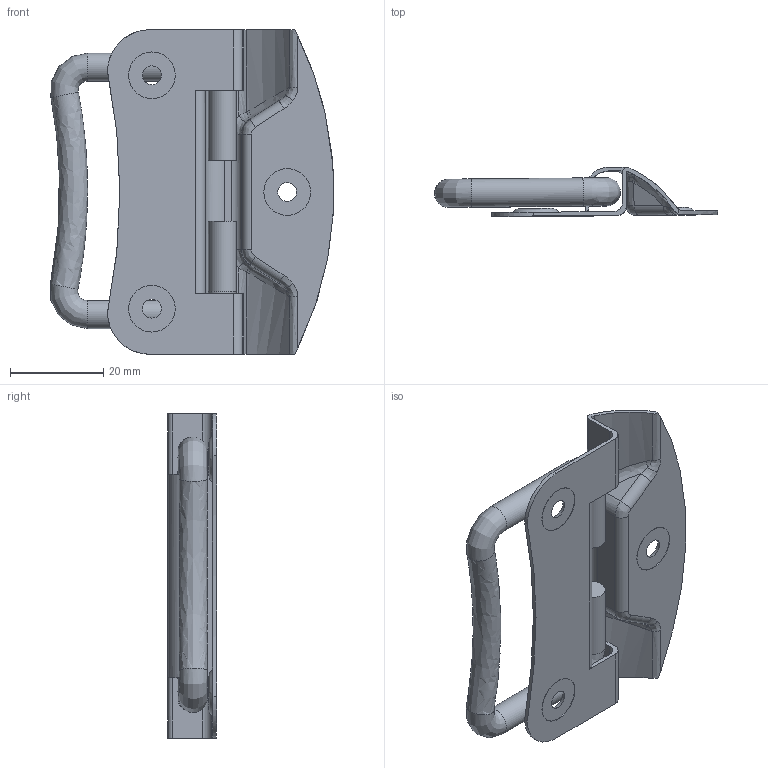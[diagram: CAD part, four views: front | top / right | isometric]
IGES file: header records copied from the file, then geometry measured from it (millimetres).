
Global section: file name: DR_A-FS6; native system: Autodesk Inventor 2015; preprocessor: unknown; author: CH.J; date: 20170714.165340; units: millimetre
Bounding box: 60.66 x 10.57 x 69.5 mm (x, y, z)
Volume: 7630.6 mm3; surface area: 11200.9 mm2
Topology: 2 solids, 2 shells, 118 faces, 310 edges, 195 vertices
Faces by surface type: bspline 118
